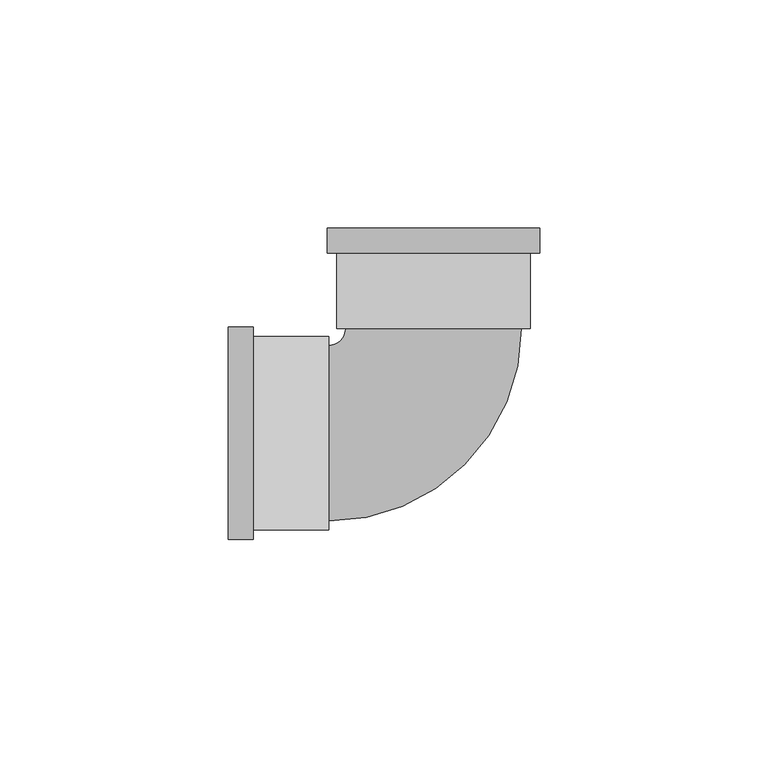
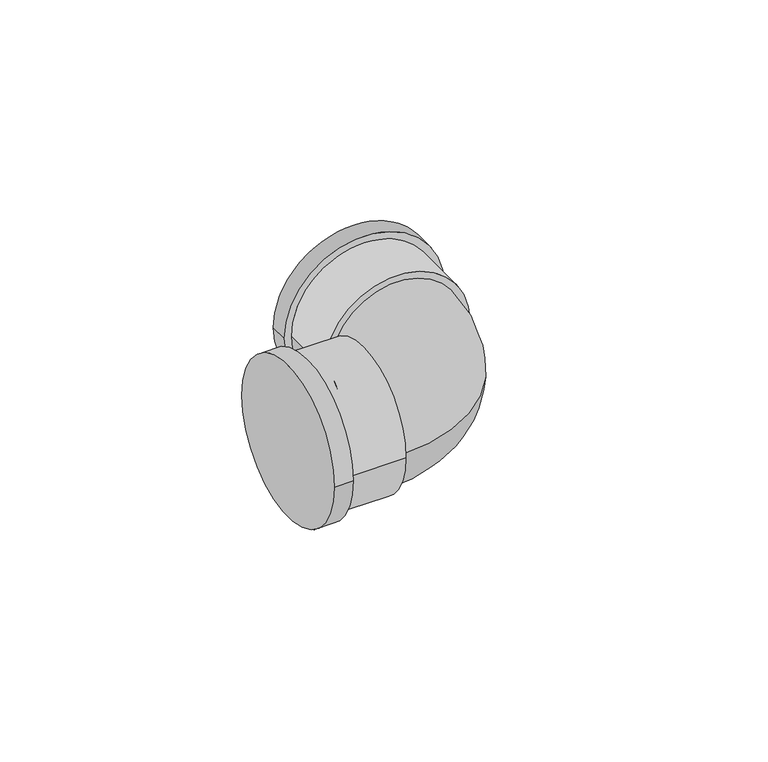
"""IFC4 building model written with IfcOpenShell, lengths in millimetres: pipe fitting geometry, Cotovelo - PVC - CW : Padrão."""

from ifc_helpers import new_model, si_unit, point, frame, origin, place, context, project, spatial, circle_curve, ellipse_curve, trimmed, source, transform, mapped, element, save
from ifc_brep_helpers import plane_surface, cylinder_surface, revolved_surface, advanced_brep


def pipe_fitting_5bd27a37(model_context):
    return source(origin(), model_context, "Body", "AdvancedBrep", [
        advanced_brep(
        [(-45.0002758, -23.2925, 0.0), (-45.0002758, 23.2925, 0.0), (-39.5002758, -23.2925, 0.0), (-39.5002758, 23.2925, 0.0), (-39.5002758, -21.175, 0.0), (-39.5002758, 21.175, 0.0), (-23.0002758, 21.175, 0.0), (-23.0002758, -21.175, 0.0), (-23.0002758, -19.25, 0.0), (-23.0002758, 19.25, 0.0), (-19.2502758, 23.000045, 0.0), (19.2497242, 23.0005066, 0.0), (21.1747242, 23.0005297, 0.0), (-21.1752758, 23.0000219, 0.0), (-23.2930396, 44.9999965, 0.0), (23.2919604, 45.0005551, 0.0), (21.1745264, 39.5005297, 0.0), (-21.1754736, 39.5000219, 0.0), (-23.2929736, 39.4999965, 0.0), (23.2920264, 39.5005551, 0.0)],
        [
            (0, 1, circle_curve(frame((-45.0002758, 0.0, 0.0), z_axis=(-1.0, 0.0, 0.0), x_axis=(0.0, 1.0, 0.0)), 23.2925)),
            (1, 0, circle_curve(frame((-45.0002758, 0.0, 0.0), z_axis=(-1.0, 0.0, 0.0), x_axis=(0.0, 1.0, 0.0)), 23.2925)),
            (2, 3, circle_curve(frame((-39.5002758, 0.0, 0.0), z_axis=(1.0, 0.0, 0.0), x_axis=(0.0, 1.0, 0.0)), 23.2925)),
            (3, 2, circle_curve(frame((-39.5002758, 0.0, 0.0), z_axis=(1.0, 0.0, 0.0), x_axis=(0.0, 1.0, 0.0)), 23.2925)),
            (4, 5, circle_curve(frame((-39.5002758, 0.0, 0.0), z_axis=(-1.0, 0.0, 0.0), x_axis=(0.0, -1.0, 0.0)), 21.175)),
            (5, 4, circle_curve(frame((-39.5002758, 0.0, 0.0), z_axis=(-1.0, 0.0, 0.0), x_axis=(0.0, -1.0, 0.0)), 21.175)),
            (0, 2),
            (3, 1),
            (6, 7, circle_curve(frame((-23.0002758, 0.0, 0.0), z_axis=(1.0, 0.0, 0.0), x_axis=(0.0, -1.0, 0.0)), 21.175)),
            (7, 6, circle_curve(frame((-23.0002758, 0.0, 0.0), z_axis=(1.0, 0.0, 0.0), x_axis=(0.0, -1.0, 0.0)), 21.175)),
            (8, 9, circle_curve(frame((-23.0002758, 0.0, 0.0), z_axis=(-1.0, 0.0, 0.0), x_axis=(0.0, 1.0, 0.0)), 19.25)),
            (9, 8, circle_curve(frame((-23.0002758, 0.0, 0.0), z_axis=(-1.0, 0.0, 0.0), x_axis=(0.0, 1.0, 0.0)), 19.25)),
            (6, 5),
            (4, 7),
            (10, 9, circle_curve(frame((-23.0002758, 23.0, 0.0), z_axis=(0.0, 0.0, -1.0), x_axis=(0.0, -1.0, 0.0)), 3.75)),
            (8, 11, circle_curve(frame((-23.0002758, 23.0, 0.0), z_axis=(0.0, 0.0, 1.0), x_axis=(0.0, -1.0, 0.0)), 42.25)),
            (11, 10, circle_curve(frame((-0.0002758, 23.0002758, 0.0), z_axis=(1.199015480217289e-05, -0.999999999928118, 0.0), x_axis=(-0.999999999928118, -1.199015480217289e-05, 0.0)), 19.25)),
            (10, 11, circle_curve(frame((-0.0002758, 23.0002758, 0.0), z_axis=(1.199015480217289e-05, -0.999999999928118, 0.0), x_axis=(-0.999999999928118, -1.199015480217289e-05, 0.0)), 19.25)),
            (12, 13, circle_curve(frame((-0.0002758, 23.0002758, 0.0), z_axis=(1.199015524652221e-05, -0.9999999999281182, 0.0), x_axis=(-0.9999999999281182, -1.199015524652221e-05, 0.0)), 21.175)),
            (13, 12, circle_curve(frame((-0.0002758, 23.0002758, 0.0), z_axis=(1.199015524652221e-05, -0.9999999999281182, 0.0), x_axis=(-0.9999999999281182, -1.199015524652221e-05, 0.0)), 21.175)),
            (14, 15, circle_curve(frame((-0.0005396, 45.0002758, 0.0), z_axis=(-1.199015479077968e-05, 0.9999999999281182, 0.0), x_axis=(0.9999999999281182, 1.199015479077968e-05, 0.0)), 23.2925)),
            (15, 14, circle_curve(frame((-0.0005396, 45.0002758, 0.0), z_axis=(-1.199015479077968e-05, 0.9999999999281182, 0.0), x_axis=(0.9999999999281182, 1.199015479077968e-05, 0.0)), 23.2925)),
            (12, 16),
            (16, 17, circle_curve(frame((-0.0004736, 39.5002758, 0.0), z_axis=(1.199015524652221e-05, -0.9999999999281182, 0.0), x_axis=(-0.9999999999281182, -1.199015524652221e-05, 0.0)), 21.175)),
            (17, 13),
            (17, 16, circle_curve(frame((-0.0004736, 39.5002758, 0.0), z_axis=(1.199015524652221e-05, -0.9999999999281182, 0.0), x_axis=(-0.9999999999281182, -1.199015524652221e-05, 0.0)), 21.175)),
            (18, 19, circle_curve(frame((-0.0004736, 39.5002758, 0.0), z_axis=(1.199015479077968e-05, -0.9999999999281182, 0.0), x_axis=(0.9999999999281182, 1.199015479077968e-05, 0.0)), 23.2925)),
            (19, 18, circle_curve(frame((-0.0004736, 39.5002758, 0.0), z_axis=(1.199015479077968e-05, -0.9999999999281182, 0.0), x_axis=(0.9999999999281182, 1.199015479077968e-05, 0.0)), 23.2925)),
            (14, 18),
            (19, 15),
        ],
        [
            plane_surface(frame((-45.0002758, 0.0, 0.0), z_axis=(-1.0, 0.0, 0.0), x_axis=(0.0, 0.0, 1.0))),
            plane_surface(frame((-39.5002758, 0.0, 0.0), z_axis=(1.0, 0.0, 0.0), x_axis=(0.0, 0.0, 1.0))),
            cylinder_surface(frame((-45.0002758, 0.0, 0.0), z_axis=(-1.0, 0.0, 0.0), x_axis=(0.0, 1.0, 0.0)), 23.2925),
            plane_surface(frame((-23.0002758, 0.0, 0.0), z_axis=(1.0, 0.0, 0.0), x_axis=(0.0, 0.0, 1.0))),
            cylinder_surface(frame((-23.0002758, 0.0, 0.0), z_axis=(1.0, 0.0, 0.0), x_axis=(0.0, -1.0, 0.0)), 21.175),
            revolved_surface(trimmed(ellipse_curve(frame((-23.0002758, 0.0, 0.0), z_axis=(-1.0, 0.0, 0.0), x_axis=(0.0, 1.0, 0.0)), 19.25, 19.25), [point((-23.0002758, -19.25, 0.0))], [point((-23.0002758, 19.25, 0.0))], True, "CARTESIAN"), (-23.0002758, 23.0, 0.0), (0.0, 0.0, 1.0)),
            revolved_surface(trimmed(ellipse_curve(frame((-23.0002758, 0.0, 0.0), z_axis=(-1.0, 0.0, 0.0), x_axis=(0.0, 1.0, 0.0)), 19.25, 19.25), [point((-23.0002758, 19.25, 0.0))], [point((-23.0002758, -19.25, 0.0))], True, "CARTESIAN"), (-23.0002758, 23.0, 0.0), (0.0, 0.0, 1.0)),
            plane_surface(frame((-0.0002758, 23.0002758, 0.0), z_axis=(1.199015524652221e-05, -0.9999999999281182, 0.0), x_axis=(0.0, 0.0, 1.0))),
            plane_surface(frame((-0.0005396, 45.0002758, 0.0), z_axis=(-1.199015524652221e-05, 0.9999999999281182, 0.0), x_axis=(0.0, 0.0, 1.0))),
            cylinder_surface(frame((-0.0002758, 23.0002758, 0.0), z_axis=(1.199015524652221e-05, -0.9999999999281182, 0.0), x_axis=(-0.9999999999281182, -1.199015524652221e-05, 0.0)), 21.175),
            plane_surface(frame((-0.0004736, 39.5002758, 0.0), z_axis=(1.199015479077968e-05, -0.9999999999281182, 0.0), x_axis=(0.0, 0.0, 1.0))),
            cylinder_surface(frame((-0.0005396, 45.0002758, 0.0), z_axis=(-1.199015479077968e-05, 0.9999999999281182, 0.0), x_axis=(0.9999999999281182, 1.199015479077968e-05, 0.0)), 23.2925),
        ],
        [
            (0, [[1, 2]]),
            (1, [[3, 4], [5, 6]]),
            (2, [[-1, 7, -4, 8]]),
            (2, [[-2, -8, -3, -7]]),
            (3, [[9, 10], [11, 12]]),
            (4, [[-9, 13, -5, 14]]),
            (4, [[-10, -14, -6, -13]]),
            (5, [[15, -11, 16, 17]]),
            (6, [[-15, 18, -16, -12]]),
            (7, [[19, 20], [-17, -18]]),
            (8, [[21, 22]]),
            (9, [[-19, 23, 24, 25]]),
            (9, [[-20, -25, 26, -23]]),
            (10, [[27, 28], [-24, -26]]),
            (11, [[-21, 29, -28, 30]]),
            (11, [[-22, -30, -27, -29]]),
        ],
    ),
    ])


if __name__ == "__main__":
    model = new_model("IFC4")
    model_context = context("Model", 3, world=origin())
    ifc_project = project(units=[si_unit("LENGTHUNIT", "METRE", prefix="MILLI")], contexts=[model_context])
    site = spatial("IfcSite", under=ifc_project)
    building = spatial("IfcBuilding", under=site)
    placement = place(None, origin())
    pipe_fitting_shape = pipe_fitting_5bd27a37(model_context)
    element("IfcPipeFitting", 1, ObjectType="Cotovelo - PVC - CW : Padrão", at=placement, inside=building, context=model_context, shape_type="MappedRepresentation", body=[
        mapped(pipe_fitting_shape, transform((0.0, 0.0, 0.0), x_axis=(1.0, 0.0, 0.0), y_axis=(0.0, 1.0, 0.0), z_axis=(0.0, 0.0, 1.0))),
    ])
    save(model, "model.ifc")
